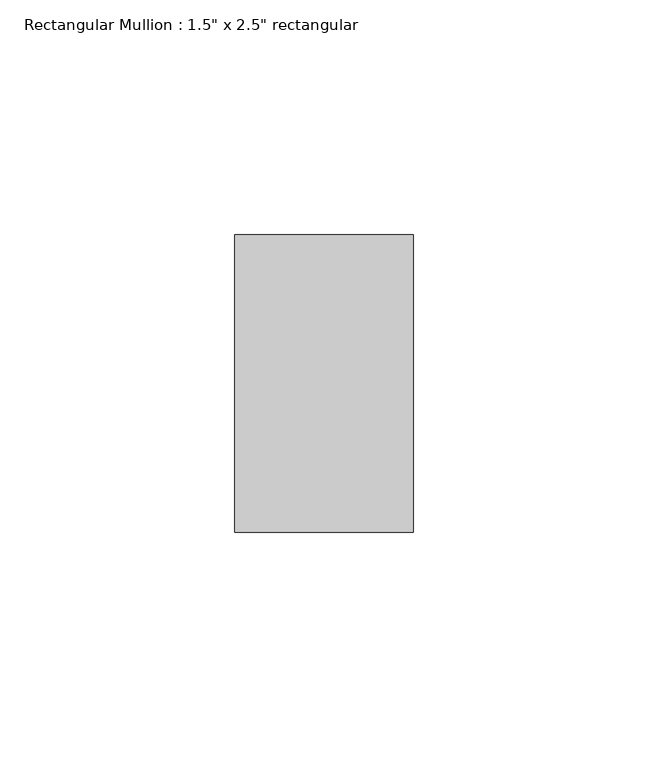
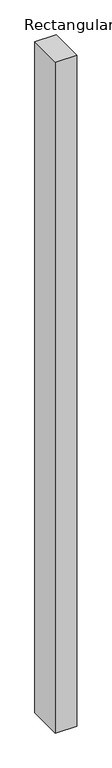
"""IFC4 building model written with IfcOpenShell, lengths in millimetres: member geometry."""

from ifc_helpers import new_model, si_unit, frame, origin, place, context, project, spatial, polyline, outline, extrude, source, transform, mapped, element, save


def member_c28e9521(model_context):
    return source(origin(), model_context, "Body", "SweptSolid", [
        extrude(outline(polyline([(19.05, 31.75), (19.05, -31.75), (-19.05, -31.75), (-19.05, 31.75), (19.05, 31.75)])), frame((0.0, 0.0, -1271.6930376), z_axis=(0.0, 0.0, 1.0), x_axis=(1.0, 0.0, 0.0)), (0.0, 0.0, 1.0), 1271.6930376),
    ])


if __name__ == "__main__":
    model = new_model("IFC4")
    model_context = context("Model", 3, world=origin())
    ifc_project = project(units=[si_unit("LENGTHUNIT", "METRE", prefix="MILLI")], contexts=[model_context])
    site = spatial("IfcSite", under=ifc_project)
    building = spatial("IfcBuilding", under=site)
    placement = place(None, origin())
    member_shape = member_c28e9521(model_context)
    element("IfcMember", 1, ObjectType="Rectangular Mullion : 1.5\" x 2.5\" rectangular", at=placement, inside=building, context=model_context, shape_type="MappedRepresentation", body=[
        mapped(member_shape, transform((0.0, 0.0, 0.0), x_axis=(1.0, 0.0, 0.0), y_axis=(0.0, 1.0, 0.0), z_axis=(0.0, 0.0, 1.0))),
    ])
    save(model, "model.ifc")
